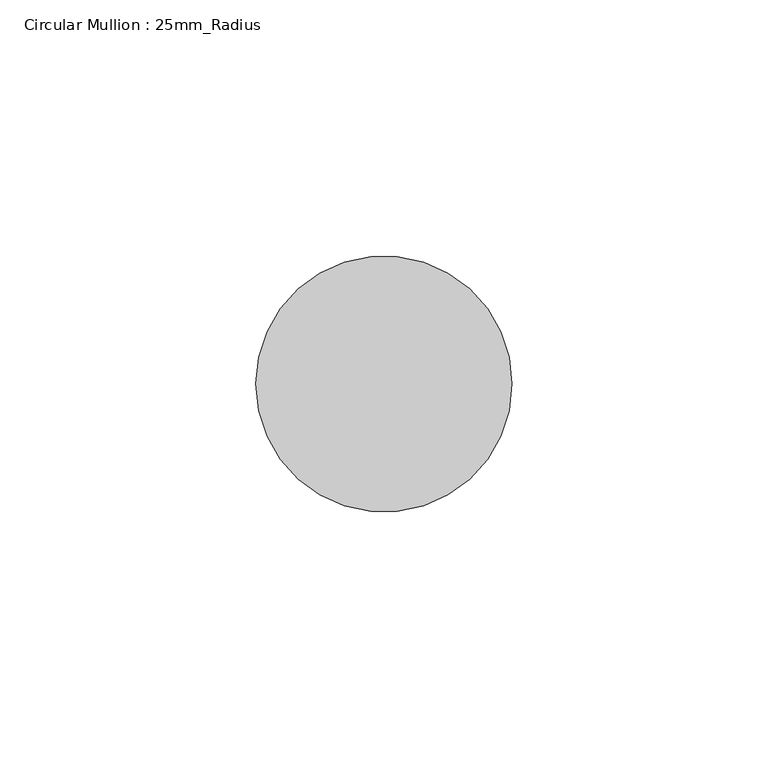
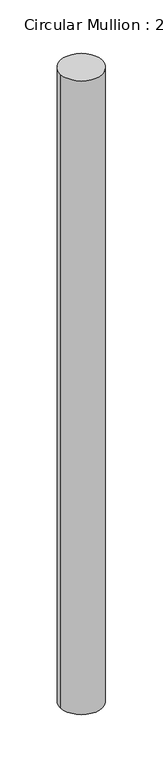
"""IFC4 building model written with IfcOpenShell, lengths in millimetres: member geometry, Circular Mullion : 25mm_Radius."""

from ifc_helpers import new_model, si_unit, point, frame, frame_2d, origin, place, context, project, spatial, circle_curve, trimmed, segment, composite_curve, outline, extrude, source, transform, mapped, element, save


def circular_mullion_25mm_radius_de6b2aad(model_context):
    return source(origin(), model_context, "Body", "SweptSolid", [
        extrude(outline(composite_curve([segment(trimmed(circle_curve(frame_2d((-25.0, 0.0)), 25.0), [point((0.0, 0.0))], [point((-50.0, 0.0))], False, "CARTESIAN"), True, "CONTINUOUS"), segment(trimmed(circle_curve(frame_2d((-25.0, 0.0)), 25.0), [point((-50.0, 0.0))], [point((0.0, 0.0))], False, "CARTESIAN"), True, "CONTINUOUS")], self_intersect=False)), frame((0.0, 0.0, -799.9994084), z_axis=(0.0, 0.0, 1.0), x_axis=(1.0, 0.0, 0.0)), (0.0, 0.0, 1.0), 799.9994084),
    ])


if __name__ == "__main__":
    model = new_model("IFC4")
    model_context = context("Model", 3, world=origin())
    ifc_project = project(units=[si_unit("LENGTHUNIT", "METRE", prefix="MILLI")], contexts=[model_context])
    site = spatial("IfcSite", under=ifc_project)
    building = spatial("IfcBuilding", under=site)
    placement = place(None, origin())
    circular_mullion_25mm_radius_shape = circular_mullion_25mm_radius_de6b2aad(model_context)
    element("IfcMember", 1, ObjectType="Circular Mullion : 25mm_Radius", at=placement, inside=building, context=model_context, shape_type="MappedRepresentation", body=[
        mapped(circular_mullion_25mm_radius_shape, transform((0.0, 0.0, 0.0), x_axis=(1.0, 0.0, 0.0), y_axis=(0.0, 1.0, 0.0), z_axis=(0.0, 0.0, 1.0))),
    ])
    save(model, "model.ifc")
